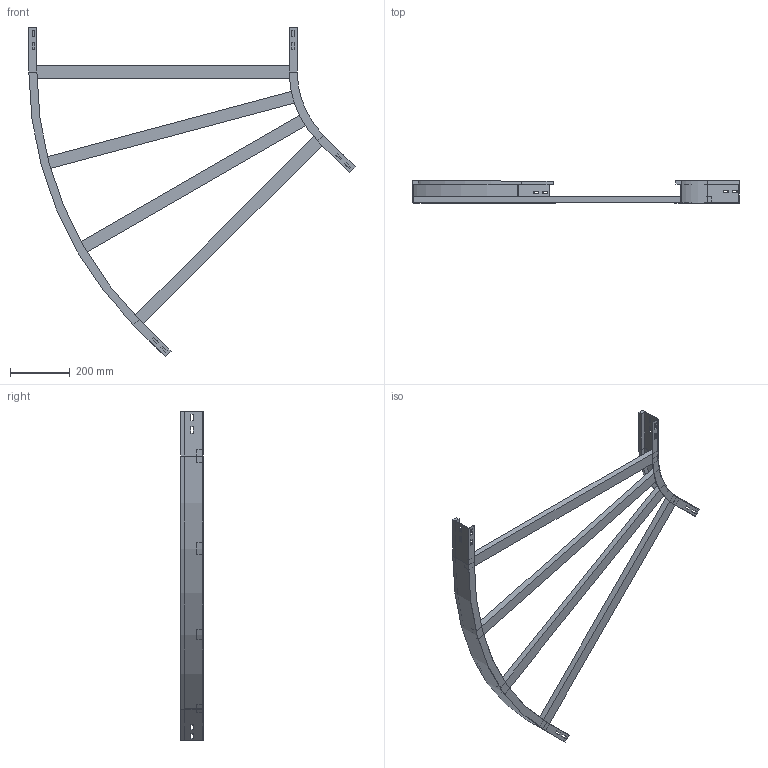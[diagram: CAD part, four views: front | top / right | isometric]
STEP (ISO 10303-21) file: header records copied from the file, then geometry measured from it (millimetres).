
FILE_DESCRIPTION (( 'STEP AP214' ), '1' );
FILE_NAME ('A2_11B3C900.step', '2025-02-21T15:16:21', ( '' ), ( '' ), 'SwSTEP 2.0', 'SolidWorks 2023', '' );
FILE_SCHEMA (( 'AUTOMOTIVE_DESIGN' ));
Length unit declared in the file: millimetre
Products named in the file (4): A2_LONGH.ESTERNO 45°_H75_R300+900; A2_LONGH.INTERNO 45°_H75_R300; A2_11B3C900; TRAVERSINO_900
Assembly tree (6 placements, depth 2):
  A2_11B3C900
    A2_LONGH.INTERNO 45°_H75_R300
    A2_LONGH.ESTERNO 45°_H75_R300+900
    TRAVERSINO_900  x4
Bounding box: 1093.93 x 75 x 1104.59 mm (x, y, z)
Volume: 3595126.1 mm3; surface area: 858270.9 mm2
Topology: 6 solids, 6 shells, 140 faces, 352 edges, 224 vertices
Faces by surface type: plane 132, cylinder 8
Entity records: 3829 total; most frequent: CARTESIAN_POINT 647, ORIENTED_EDGE 632, DIRECTION 594, EDGE_CURVE 316, VECTOR 300, LINE 300, VERTEX_POINT 200, EDGE_LOOP 154
